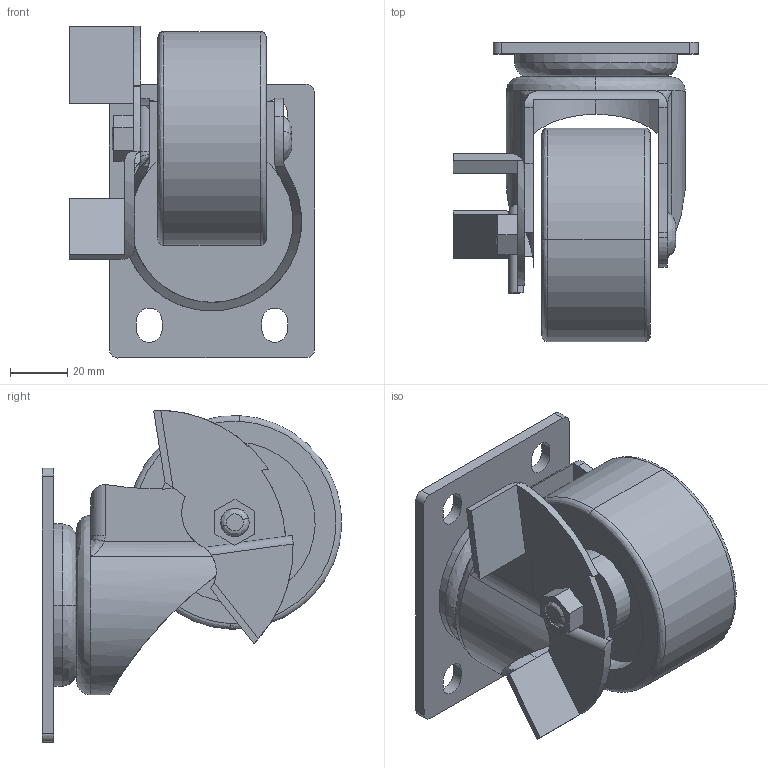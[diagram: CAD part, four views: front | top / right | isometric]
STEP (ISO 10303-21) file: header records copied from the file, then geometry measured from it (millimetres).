
FILE_DESCRIPTION (( 'STEP AP203' ), '1' );
FILE_NAME ('DYP-B75105.STEP', '2021-06-24T00:41:33', ( '' ), ( '' ), 'SwSTEP 2.0', 'SolidWorks 2017', '' );
FILE_SCHEMA (( 'CONFIG_CONTROL_DESIGN' ));
Length unit declared in the file: millimetre
Products named in the file (1): DYP-B75105
Bounding box: 86.03 x 104.96 x 116.46 mm (x, y, z)
Surface area: 64663.9 mm2 (no closed solid volume)
Topology: 0 solids, 9 shells, 133 faces, 361 edges, 241 vertices
Faces by surface type: cylinder 57, plane 54, bspline 22
Entity records: 7526 total; most frequent: CARTESIAN_POINT 4168, DIRECTION 686, ORIENTED_EDGE 658, EDGE_CURVE 359, AXIS2_PLACEMENT_3D 268, VERTEX_POINT 241, EDGE_LOOP 159, CIRCLE 156
